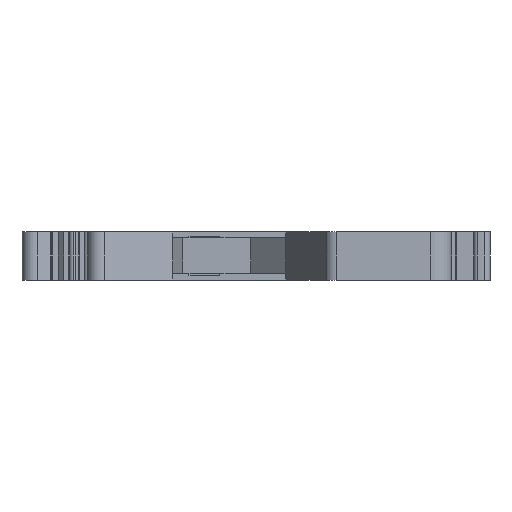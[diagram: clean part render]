
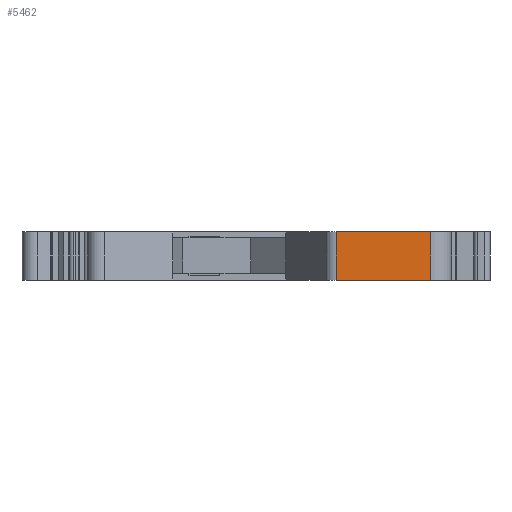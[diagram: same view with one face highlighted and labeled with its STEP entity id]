
A CAD part, left-side view. The second image highlights one B-rep face of the part: STEP entity #5462.
In plain terms, the highlighted planar face has unit normal (-1, 0, 0).
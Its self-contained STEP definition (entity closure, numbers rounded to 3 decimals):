
#1311=DIRECTION('',(0.,1.,0.));
#1312=VECTOR('',#1311,8.245);
#1313=CARTESIAN_POINT('',(-84.969,35.56,0.));
#1314=LINE('',#1313,#1312);
#1922=DIRECTION('',(0.,0.,-1.));
#1923=VECTOR('',#1922,4.2);
#1924=CARTESIAN_POINT('',(-84.969,35.56,4.2));
#1925=LINE('',#1924,#1923);
#1926=DIRECTION('',(0.,1.,0.));
#1927=VECTOR('',#1926,8.245);
#1928=CARTESIAN_POINT('',(-84.969,35.56,4.2));
#1929=LINE('',#1928,#1927);
#1930=DIRECTION('',(0.,0.,1.));
#1931=VECTOR('',#1930,4.2);
#1932=CARTESIAN_POINT('',(-84.969,43.805,0.));
#1933=LINE('',#1932,#1931);
#2962=CARTESIAN_POINT('',(-84.969,35.56,0.));
#2963=CARTESIAN_POINT('',(-84.969,43.805,0.));
#2964=VERTEX_POINT('',#2962);
#2965=VERTEX_POINT('',#2963);
#2966=CARTESIAN_POINT('',(-84.969,43.805,4.2));
#2967=VERTEX_POINT('',#2966);
#2968=CARTESIAN_POINT('',(-84.969,35.56,4.2));
#2969=VERTEX_POINT('',#2968);
#5450=CARTESIAN_POINT('',(-84.969,43.805,0.));
#5451=DIRECTION('',(-1.,0.,0.));
#5452=DIRECTION('',(0.,0.,1.));
#5453=AXIS2_PLACEMENT_3D('',#5450,#5451,#5452);
#5454=PLANE('',#5453);
#5455=ORIENTED_EDGE('',*,*,#5444,.T.);
#5456=ORIENTED_EDGE('',*,*,#4407,.T.);
#5458=ORIENTED_EDGE('',*,*,#5457,.T.);
#5459=ORIENTED_EDGE('',*,*,#3903,.F.);
#5460=EDGE_LOOP('',(#5455,#5456,#5458,#5459));
#5461=FACE_OUTER_BOUND('',#5460,.F.);
#5462=ADVANCED_FACE('',(#5461),#5454,.T.);
#3903=EDGE_CURVE('',#2969,#2967,#1929,.T.);
#4407=EDGE_CURVE('',#2964,#2965,#1314,.T.);
#5444=EDGE_CURVE('',#2969,#2964,#1925,.T.);
#5457=EDGE_CURVE('',#2965,#2967,#1933,.T.);
